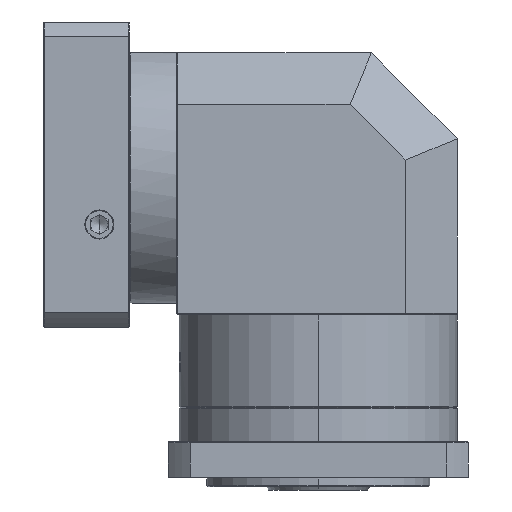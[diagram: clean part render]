
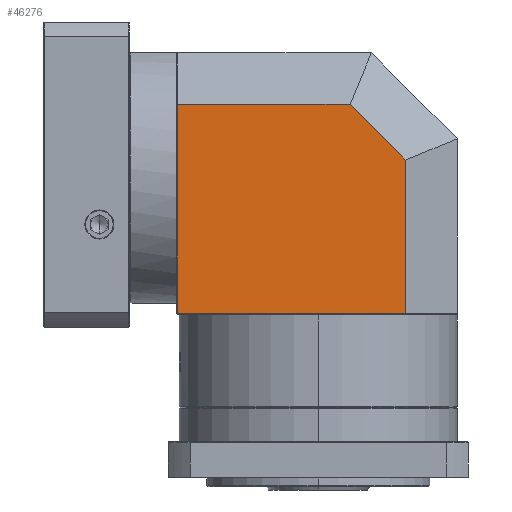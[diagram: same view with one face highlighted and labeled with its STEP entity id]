
A CAD part, left-side view. The second image highlights one B-rep face of the part: STEP entity #46276.
In plain terms, the highlighted planar face has unit normal (-1, 0, 0).
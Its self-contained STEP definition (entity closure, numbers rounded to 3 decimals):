
#2080 = VECTOR ( 'NONE', #101192, 1000. ) ;
#2127 = ORIENTED_EDGE ( 'NONE', *, *, #13306, .F. ) ;
#2745 = EDGE_LOOP ( 'NONE', ( #58952, #65126, #2127, #89776, #22770 ) ) ;
#11325 = DIRECTION ( 'NONE',  ( 0., 0.707, 0.707 ) ) ;
#13306 = EDGE_CURVE ( 'NONE', #109647, #18419, #35410, .T. ) ;
#14223 = VERTEX_POINT ( 'NONE', #56636 ) ;
#18419 = VERTEX_POINT ( 'NONE', #83668 ) ;
#22770 = ORIENTED_EDGE ( 'NONE', *, *, #31887, .T. ) ;
#30679 = EDGE_CURVE ( 'NONE', #45149, #104848, #33584, .T. ) ;
#30852 = VECTOR ( 'NONE', #121785, 1000. ) ;
#31887 = EDGE_CURVE ( 'NONE', #14223, #45149, #46909, .T. ) ;
#33584 = LINE ( 'NONE', #122713, #79567 ) ;
#35410 = LINE ( 'NONE', #90902, #30852 ) ;
#41960 = CARTESIAN_POINT ( 'NONE',  ( -161.721, 123.975, 79.959 ) ) ;
#44212 = EDGE_CURVE ( 'NONE', #109647, #14223, #47564, .T. ) ;
#44790 = CARTESIAN_POINT ( 'NONE',  ( -161.721, 205.225, -41.741 ) ) ;
#45149 = VERTEX_POINT ( 'NONE', #60179 ) ;
#46276 = ADVANCED_FACE ( 'NONE', ( #84954 ), #49152, .T. ) ;
#46909 = LINE ( 'NONE', #41960, #2080 ) ;
#47564 = LINE ( 'NONE', #60436, #107418 ) ;
#49152 = PLANE ( 'NONE',  #93378 ) ;
#50415 = DIRECTION ( 'NONE',  ( -1., 0., 0. ) ) ;
#53673 = DIRECTION ( 'NONE',  ( 0., 1., 0. ) ) ;
#56636 = CARTESIAN_POINT ( 'NONE',  ( -161.721, 104.651, 79.959 ) ) ;
#58952 = ORIENTED_EDGE ( 'NONE', *, *, #30679, .T. ) ;
#60179 = CARTESIAN_POINT ( 'NONE',  ( -161.721, 205.225, 79.959 ) ) ;
#60436 = CARTESIAN_POINT ( 'NONE',  ( -161.721, 72.225, 47.533 ) ) ;
#65126 = ORIENTED_EDGE ( 'NONE', *, *, #120575, .F. ) ;
#79567 = VECTOR ( 'NONE', #83220, 1000. ) ;
#82091 = CARTESIAN_POINT ( 'NONE',  ( -161.721, 72.225, 47.533 ) ) ;
#83220 = DIRECTION ( 'NONE',  ( 0., 0., -1. ) ) ;
#83668 = CARTESIAN_POINT ( 'NONE',  ( -161.721, 72.225, -41.741 ) ) ;
#84954 = FACE_OUTER_BOUND ( 'NONE', #2745, .T. ) ;
#89776 = ORIENTED_EDGE ( 'NONE', *, *, #44212, .T. ) ;
#90902 = CARTESIAN_POINT ( 'NONE',  ( -161.721, 72.225, 33.859 ) ) ;
#93378 = AXIS2_PLACEMENT_3D ( 'NONE', #109183, #50415, #118211 ) ;
#94366 = CARTESIAN_POINT ( 'NONE',  ( -161.721, 123.975, -41.741 ) ) ;
#98266 = LINE ( 'NONE', #94366, #108974 ) ;
#101192 = DIRECTION ( 'NONE',  ( 0., 1., 0. ) ) ;
#104848 = VERTEX_POINT ( 'NONE', #44790 ) ;
#107418 = VECTOR ( 'NONE', #11325, 1000. ) ;
#108974 = VECTOR ( 'NONE', #53673, 1000. ) ;
#109183 = CARTESIAN_POINT ( 'NONE',  ( -161.721, 123.975, 33.859 ) ) ;
#109647 = VERTEX_POINT ( 'NONE', #82091 ) ;
#118211 = DIRECTION ( 'NONE',  ( 0., 0., -1. ) ) ;
#120575 = EDGE_CURVE ( 'NONE', #18419, #104848, #98266, .T. ) ;
#121785 = DIRECTION ( 'NONE',  ( 0., 0., -1. ) ) ;
#122713 = CARTESIAN_POINT ( 'NONE',  ( -161.721, 205.225, 33.859 ) ) ;
